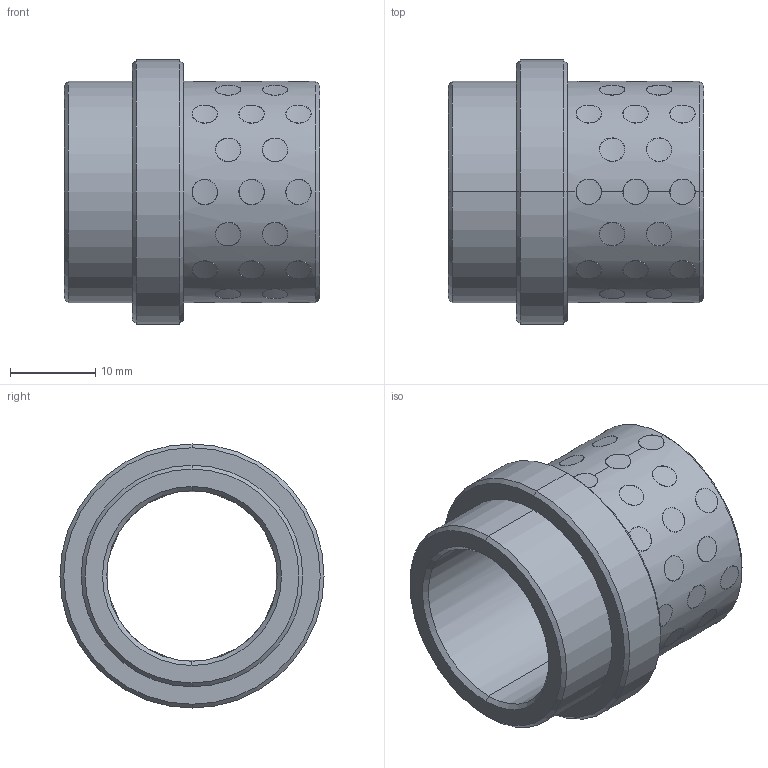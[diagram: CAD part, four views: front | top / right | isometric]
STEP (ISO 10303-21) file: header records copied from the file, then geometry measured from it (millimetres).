
FILE_DESCRIPTION((''),'2;1');
FILE_NAME('G31220022','2017-12-30T',('MANU'),(''),'PRO/ENGINEER BY PARAMETRIC TECHNOLOGY CORPORATION, 2012130','PRO/ENGINEER BY PARAMETRIC TECHNOLOGY CORPORATION, 2012130','');
FILE_SCHEMA(('CONFIG_CONTROL_DESIGN'));
Length unit declared in the file: millimetre
Products named in the file (1): G31220022
Bounding box: 30 x 31 x 31 mm (x, y, z)
Volume: 7767.6 mm3; surface area: 7415 mm2
Topology: 41 solids, 41 shells, 264 faces, 564 edges, 372 vertices
Faces by surface type: cylinder 248, cone 12, plane 4
Entity records: 11728 total; most frequent: CARTESIAN_POINT 6514, ORIENTED_EDGE 1128, DIRECTION 776, EDGE_CURVE 564, VERTEX_POINT 372, B_SPLINE_CURVE_WITH_KNOTS 344, EDGE_LOOP 336, AXIS2_PLACEMENT_3D 292
